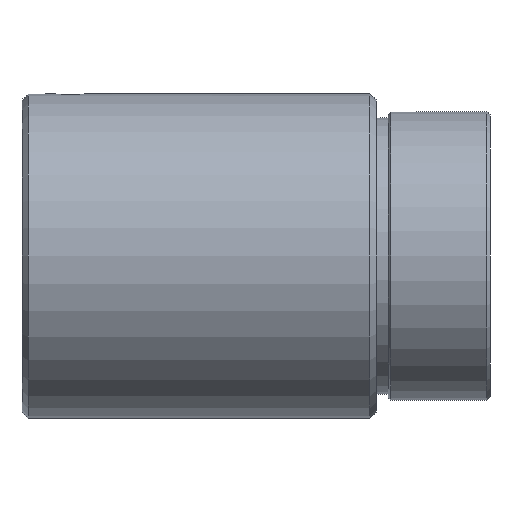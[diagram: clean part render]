
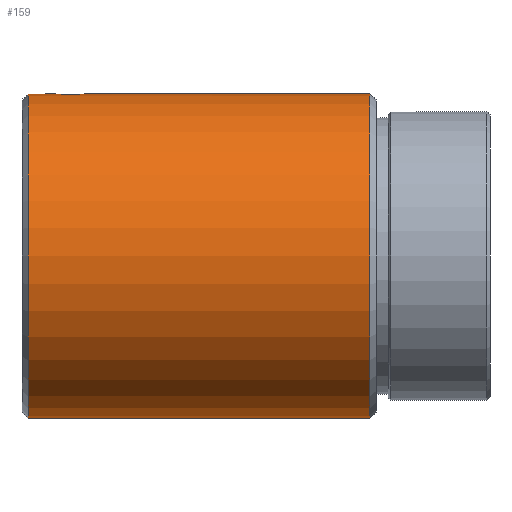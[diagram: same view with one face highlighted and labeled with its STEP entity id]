
A CAD part, front view. The second image highlights one B-rep face of the part: STEP entity #159.
In plain terms, the highlighted cylindrical face has radius 27 mm (diameter 54 mm), a partial arc.
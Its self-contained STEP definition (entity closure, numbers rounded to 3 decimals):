
#2 = CARTESIAN_POINT ( 'NONE',  ( 5.831, -1.254, 26.971 ) ) ;
#6 = CARTESIAN_POINT ( 'NONE',  ( 1., 0., -27. ) ) ;
#16 = CARTESIAN_POINT ( 'NONE',  ( 5.628, -0.805, 26.988 ) ) ;
#21 = CARTESIAN_POINT ( 'NONE',  ( 6.012, -1.525, 26.957 ) ) ;
#29 = LINE ( 'NONE', #53, #822 ) ;
#37 = DIRECTION ( 'NONE',  ( 0., 0., 1. ) ) ;
#42 = CARTESIAN_POINT ( 'NONE',  ( 9.526, -1.987, 26.927 ) ) ;
#46 = CARTESIAN_POINT ( 'NONE',  ( -28.983, 0., 0. ) ) ;
#48 = CARTESIAN_POINT ( 'NONE',  ( 7.351, -2.42, 26.891 ) ) ;
#53 = CARTESIAN_POINT ( 'NONE',  ( -28.983, 0., -27. ) ) ;
#56 = CIRCLE ( 'NONE', #802, 27. ) ;
#59 = CARTESIAN_POINT ( 'NONE',  ( 6.746, -2.169, 26.913 ) ) ;
#61 = CARTESIAN_POINT ( 'NONE',  ( 9.253, -2.17, 26.913 ) ) ;
#75 = CARTESIAN_POINT ( 'NONE',  ( 5.58, -0.65, 26.993 ) ) ;
#84 = CARTESIAN_POINT ( 'NONE',  ( 5.753, -1.108, 26.978 ) ) ;
#92 = DIRECTION ( 'NONE',  ( -1., 0., 0. ) ) ;
#94 = VERTEX_POINT ( 'NONE', #597 ) ;
#97 = CARTESIAN_POINT ( 'NONE',  ( 8.326, -2.484, 26.886 ) ) ;
#99 = EDGE_CURVE ( 'NONE', #347, #94, #56, .T. ) ;
#104 = CARTESIAN_POINT ( 'NONE',  ( 8.164, -2.5, 26.884 ) ) ;
#110 = EDGE_CURVE ( 'NONE', #347, #483, #29, .T. ) ;
#134 = CARTESIAN_POINT ( 'NONE',  ( 6.476, -1.988, 26.927 ) ) ;
#135 = EDGE_CURVE ( 'NONE', #483, #576, #254, .T. ) ;
#138 = AXIS2_PLACEMENT_3D ( 'NONE', #46, #92, #207 ) ;
#143 = CARTESIAN_POINT ( 'NONE',  ( 9.652, -1.883, 26.934 ) ) ;
#145 = CARTESIAN_POINT ( 'NONE',  ( 5.516, -0.329, 26.998 ) ) ;
#146 = CARTESIAN_POINT ( 'NONE',  ( 7.195, -2.373, 26.896 ) ) ;
#155 = CARTESIAN_POINT ( 'NONE',  ( 7.672, -2.484, 26.886 ) ) ;
#159 = ADVANCED_FACE ( 'NONE', ( #451 ), #382, .T. ) ;
#169 = CARTESIAN_POINT ( 'NONE',  ( 8.649, -2.42, 26.891 ) ) ;
#205 = CARTESIAN_POINT ( 'NONE',  ( 10.5, -0.165, 27. ) ) ;
#207 = DIRECTION ( 'NONE',  ( 0., 0., 1. ) ) ;
#216 = VECTOR ( 'NONE', #365, 1000. ) ;
#229 = CARTESIAN_POINT ( 'NONE',  ( 5.5, 0., 27. ) ) ;
#232 = CARTESIAN_POINT ( 'NONE',  ( 10.484, -0.328, 26.998 ) ) ;
#235 = CARTESIAN_POINT ( 'NONE',  ( 10.372, -0.806, 26.988 ) ) ;
#239 = CARTESIAN_POINT ( 'NONE',  ( 9.883, -1.653, 26.95 ) ) ;
#245 = EDGE_CURVE ( 'NONE', #94, #334, #440, .T. ) ;
#254 = CIRCLE ( 'NONE', #366, 27. ) ;
#299 = CARTESIAN_POINT ( 'NONE',  ( 5.5, 0., 27. ) ) ;
#300 = CARTESIAN_POINT ( 'NONE',  ( 6.116, -1.651, 26.95 ) ) ;
#317 = CARTESIAN_POINT ( 'NONE',  ( 10.247, -1.109, 26.978 ) ) ;
#334 = VERTEX_POINT ( 'NONE', #912 ) ;
#347 = VERTEX_POINT ( 'NONE', #556 ) ;
#362 = ORIENTED_EDGE ( 'NONE', *, *, #110, .F. ) ;
#365 = DIRECTION ( 'NONE',  ( -1., 0., 0. ) ) ;
#366 = AXIS2_PLACEMENT_3D ( 'NONE', #849, #493, #622 ) ;
#382 = CYLINDRICAL_SURFACE ( 'NONE', #138, 27. ) ;
#389 = CARTESIAN_POINT ( 'NONE',  ( 6.893, -2.247, 26.906 ) ) ;
#393 = ORIENTED_EDGE ( 'NONE', *, *, #99, .T. ) ;
#411 = CARTESIAN_POINT ( 'NONE',  ( 7.838, -2.5, 26.884 ) ) ;
#440 = LINE ( 'NONE', #599, #216 ) ;
#451 = FACE_OUTER_BOUND ( 'NONE', #891, .T. ) ;
#483 = VERTEX_POINT ( 'NONE', #6 ) ;
#493 = DIRECTION ( 'NONE',  ( -1., 0., 0. ) ) ;
#499 = CARTESIAN_POINT ( 'NONE',  ( 58., 0., 0. ) ) ;
#519 = VERTEX_POINT ( 'NONE', #229 ) ;
#527 = EDGE_CURVE ( 'NONE', #334, #519, #887, .T. ) ;
#533 = CARTESIAN_POINT ( 'NONE',  ( 10.42, -0.647, 26.993 ) ) ;
#544 = CARTESIAN_POINT ( 'NONE',  ( 10.17, -1.253, 26.971 ) ) ;
#556 = CARTESIAN_POINT ( 'NONE',  ( 58., 0., -27. ) ) ;
#576 = VERTEX_POINT ( 'NONE', #765 ) ;
#593 = ORIENTED_EDGE ( 'NONE', *, *, #245, .T. ) ;
#597 = CARTESIAN_POINT ( 'NONE',  ( 58., 0., 27. ) ) ;
#599 = CARTESIAN_POINT ( 'NONE',  ( -28.983, 0., 27. ) ) ;
#622 = DIRECTION ( 'NONE',  ( 0., 0., 1. ) ) ;
#630 = CARTESIAN_POINT ( 'NONE',  ( 5.5, -0.163, 27. ) ) ;
#678 = ORIENTED_EDGE ( 'NONE', *, *, #135, .F. ) ;
#688 = ORIENTED_EDGE ( 'NONE', *, *, #527, .T. ) ;
#695 = CARTESIAN_POINT ( 'NONE',  ( 6.349, -1.885, 26.934 ) ) ;
#765 = CARTESIAN_POINT ( 'NONE',  ( 1., 0., 27. ) ) ;
#787 = DIRECTION ( 'NONE',  ( -1., 0., 0. ) ) ;
#802 = AXIS2_PLACEMENT_3D ( 'NONE', #499, #787, #37 ) ;
#822 = VECTOR ( 'NONE', #914, 1000. ) ;
#849 = CARTESIAN_POINT ( 'NONE',  ( 1., 0., 0. ) ) ;
#861 = CARTESIAN_POINT ( 'NONE',  ( 9.988, -1.524, 26.957 ) ) ;
#867 = ORIENTED_EDGE ( 'NONE', *, *, #899, .T. ) ;
#870 = CARTESIAN_POINT ( 'NONE',  ( -28.983, 0., 27. ) ) ;
#887 = B_SPLINE_CURVE_WITH_KNOTS ( 'NONE', 3,
 ( #922, #205, #232, #533, #235, #317, #544, #861, #239, #143, #42, #61, #910, #958, #169, #97, #104, #411, #155, #48, #146, #389, #59, #134, #695, #300, #21, #2, #84, #16, #75, #145, #630, #299 ),
 .UNSPECIFIED., .F., .F.,
 ( 4, 2, 2, 2, 2, 2, 2, 2, 2, 2, 2, 2, 2, 2, 2, 2, 4 ),
 ( 0., 0., 0.001, 0.001, 0.002, 0.002, 0.003, 0.003, 0.004, 0.004, 0.005, 0.005, 0.006, 0.006, 0.007, 0.007, 0.008 ),
 .UNSPECIFIED. ) ;
#891 = EDGE_LOOP ( 'NONE', ( #362, #393, #593, #688, #867, #678 ) ) ;
#899 = EDGE_CURVE ( 'NONE', #519, #576, #911, .T. ) ;
#910 = CARTESIAN_POINT ( 'NONE',  ( 9.108, -2.247, 26.906 ) ) ;
#911 = LINE ( 'NONE', #870, #930 ) ;
#912 = CARTESIAN_POINT ( 'NONE',  ( 10.5, 0., 27. ) ) ;
#914 = DIRECTION ( 'NONE',  ( -1., 0., 0. ) ) ;
#922 = CARTESIAN_POINT ( 'NONE',  ( 10.5, 0., 27. ) ) ;
#930 = VECTOR ( 'NONE', #933, 1000. ) ;
#933 = DIRECTION ( 'NONE',  ( -1., 0., 0. ) ) ;
#958 = CARTESIAN_POINT ( 'NONE',  ( 8.807, -2.372, 26.896 ) ) ;
